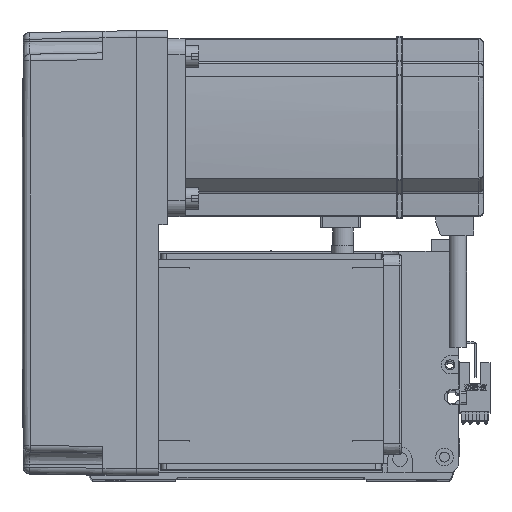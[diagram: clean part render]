
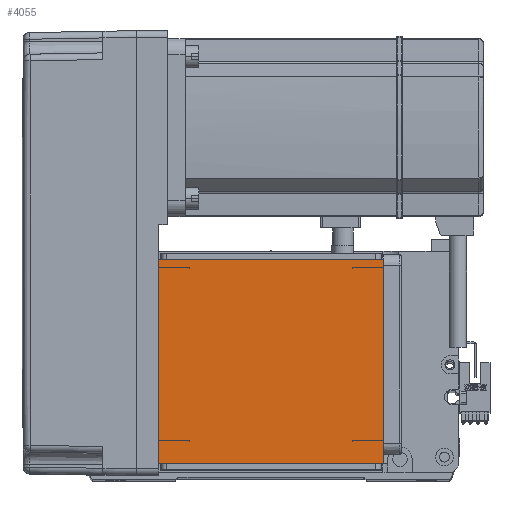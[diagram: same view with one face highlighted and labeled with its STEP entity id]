
A CAD part, top view. The second image highlights one B-rep face of the part: STEP entity #4055.
In plain terms, the highlighted planar face has unit normal (0, 0, 1).
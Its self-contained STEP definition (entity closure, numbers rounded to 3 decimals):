
#254 = CARTESIAN_POINT ( 'NONE',  ( 50.5, 20., 115. ) ) ;
#1077 = FACE_OUTER_BOUND ( 'NONE', #10860, .T. ) ;
#1236 = CARTESIAN_POINT ( 'NONE',  ( -50.5, 111.5, 115. ) ) ;
#1645 = CARTESIAN_POINT ( 'NONE',  ( -70.004, 111.5, 115. ) ) ;
#2412 = CARTESIAN_POINT ( 'NONE',  ( -50.5, 122., 115. ) ) ;
#3118 = VERTEX_POINT ( 'NONE', #1236 ) ;
#4055 = ADVANCED_FACE ( 'NONE', ( #1077 ), #4916, .T. ) ;
#4916 = PLANE ( 'NONE',  #15507 ) ;
#5665 = DIRECTION ( 'NONE',  ( 1., 0., 0. ) ) ;
#8732 = LINE ( 'NONE', #24273, #17561 ) ;
#8857 = CARTESIAN_POINT ( 'NONE',  ( -50.5, 20., 115. ) ) ;
#10627 = CARTESIAN_POINT ( 'NONE',  ( 50.5, 122., 115. ) ) ;
#10860 = EDGE_LOOP ( 'NONE', ( #29294, #11461, #39748, #10952 ) ) ;
#10952 = ORIENTED_EDGE ( 'NONE', *, *, #15773, .T. ) ;
#11461 = ORIENTED_EDGE ( 'NONE', *, *, #52079, .T. ) ;
#11800 = LINE ( 'NONE', #10627, #26742 ) ;
#14998 = VECTOR ( 'NONE', #50443, 1000. ) ;
#15140 = VERTEX_POINT ( 'NONE', #8857 ) ;
#15507 = AXIS2_PLACEMENT_3D ( 'NONE', #22236, #44649, #5665 ) ;
#15530 = DIRECTION ( 'NONE',  ( -1., 0., 0. ) ) ;
#15773 = EDGE_CURVE ( 'NONE', #28095, #30601, #11800, .T. ) ;
#17561 = VECTOR ( 'NONE', #15530, 1000. ) ;
#18648 = EDGE_CURVE ( 'NONE', #28095, #15140, #8732, .T. ) ;
#22236 = CARTESIAN_POINT ( 'NONE',  ( 0., 0., 115. ) ) ;
#24273 = CARTESIAN_POINT ( 'NONE',  ( -70.004, 20., 115. ) ) ;
#25558 = EDGE_CURVE ( 'NONE', #3118, #30601, #40908, .T. ) ;
#26742 = VECTOR ( 'NONE', #54148, 1000. ) ;
#28095 = VERTEX_POINT ( 'NONE', #254 ) ;
#29294 = ORIENTED_EDGE ( 'NONE', *, *, #25558, .F. ) ;
#30601 = VERTEX_POINT ( 'NONE', #38028 ) ;
#32137 = DIRECTION ( 'NONE',  ( 1., 0., 0. ) ) ;
#38028 = CARTESIAN_POINT ( 'NONE',  ( 50.5, 111.5, 115. ) ) ;
#39556 = VECTOR ( 'NONE', #32137, 1000. ) ;
#39748 = ORIENTED_EDGE ( 'NONE', *, *, #18648, .F. ) ;
#40908 = LINE ( 'NONE', #1645, #39556 ) ;
#44649 = DIRECTION ( 'NONE',  ( 0., 0., 1. ) ) ;
#50443 = DIRECTION ( 'NONE',  ( 0., -1., 0. ) ) ;
#51119 = LINE ( 'NONE', #2412, #14998 ) ;
#52079 = EDGE_CURVE ( 'NONE', #3118, #15140, #51119, .T. ) ;
#54148 = DIRECTION ( 'NONE',  ( 0., 1., 0. ) ) ;
